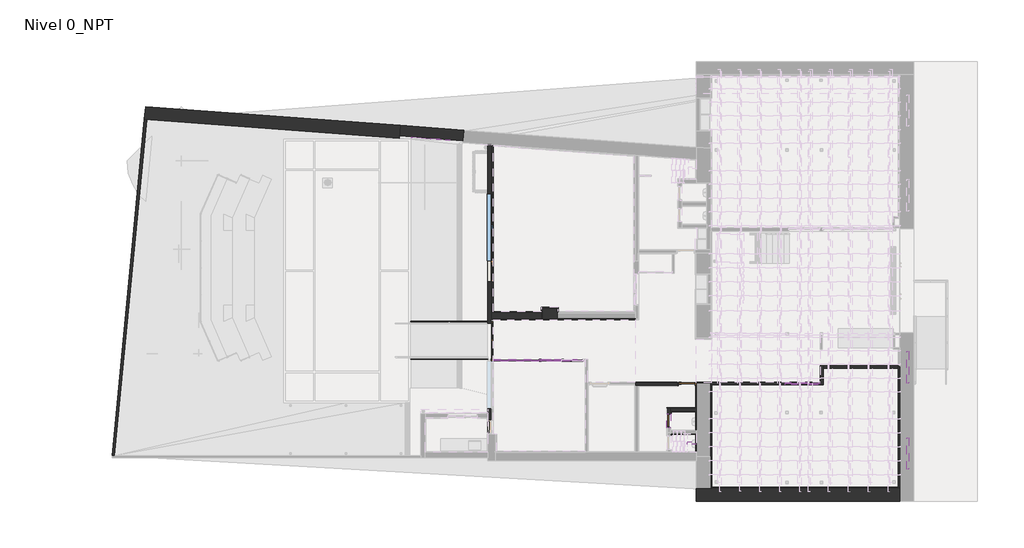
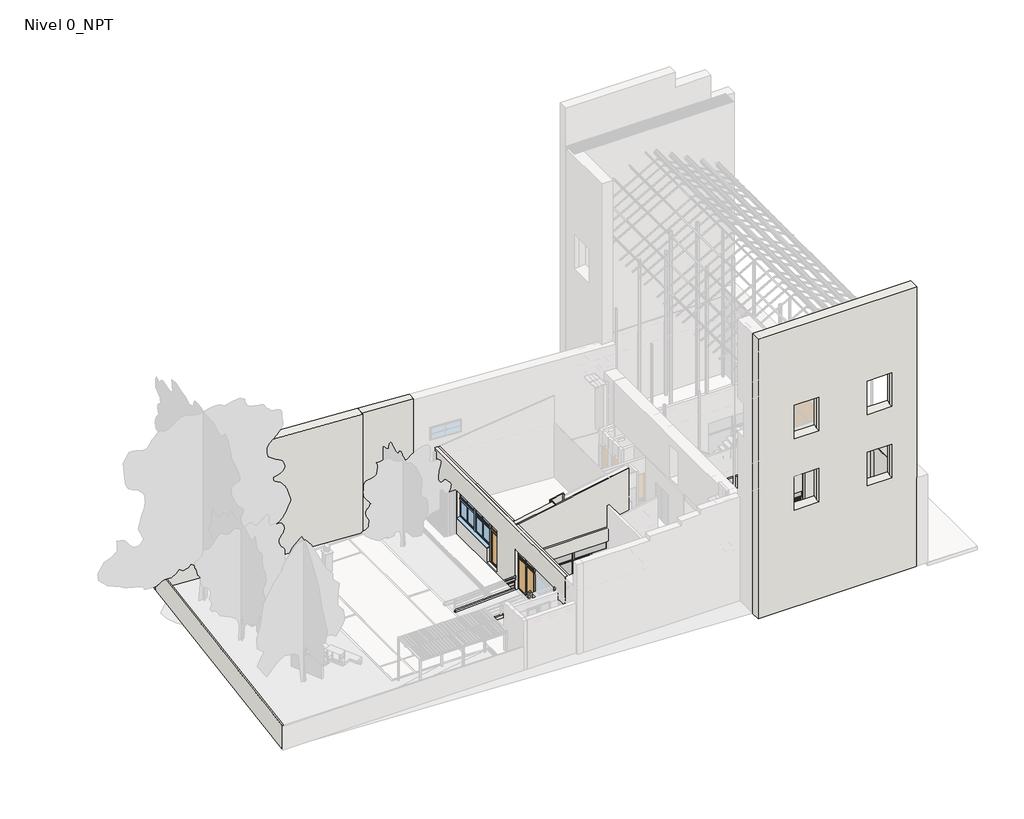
# One storey, part 2 of 10: 38 walls, 13 members, 8 plates, 4 doors, 4 windows.
"""IFC4 building model written with IfcOpenShell, lengths in millimetres."""

from ifc_helpers import new_model, si_unit, frame, origin, origin_with_axes, place, context, project, spatial, polyline, outline, extrude, faceted_brep, transform, mapped, element, save
from components import door_f6aa89b4, door_db755311, door_e3acdb04, arq_pu_int_alu_muro_cortina_35e93262, montante_rectangular_10x10_23ae108b, montante_rectangular_10x10_5bd723db, montante_rectangular_10x10_1208ad8d, montante_rectangular_10x10_d4860ac2, montante_rectangular_10x10_ed9c435a, montante_rectangular_5x10_aa8766cf, montante_rectangular_5x10_c640f651, montante_rectangular_5x10_80e42d04, montante_rectangular_5x10_69503be4, montante_rectangular_5x5_ec66791f, montante_rectangular_5x5_64893cda, plate_c2ac4313, plate_084df372, plate_0e3e9aa2, plate_3da4a636, plate_a66405bc, plate_f4d53fb9, plate_d8b661f9, plate_b5645cc8, window_49d07148, window_5a991f98, window_182x111_f0448781

model = new_model("IFC4")

# Units and contexts
model_context = context("Model", 3, world=origin())
ifc_project = project(units=[si_unit("LENGTHUNIT", "METRE", prefix="MILLI")], contexts=[model_context])

# Site, building, storey
site = spatial("IfcSite", under=ifc_project)
building = spatial("IfcBuilding", under=site)
storey = spatial("IfcBuildingStorey", under=building, Name="Nivel 0_NPT", Elevation=0.0)

# Doors
placement = place(None, origin())
door_shape = door_f6aa89b4(model_context)
element("IfcDoor", 1, ObjectType="ARQ-PU-EX-80X260-Alu-A2 : ARQ-PU-EX-80X260-Alu-A2", at=placement, inside=storey, context=model_context, shape_type="MappedRepresentation", body=[
    mapped(door_shape, transform((-4285.1873738, 4459.9632893, 0.0), x_axis=(0.0, 1.0, 0.0), y_axis=(-1.0, 0.0, 0.0), z_axis=(0.0, 0.0, 1.0))),
])
door_2_shape = door_db755311(model_context)
element("IfcDoor", 2, ObjectType="ARQ-PU-EX-181x260-Alu-A3 : ARQ-PU-EX-181x260-Alu-A3", at=placement, inside=storey, context=model_context, shape_type="MappedRepresentation", body=[
    mapped(door_2_shape, transform((-4285.1873738, 1143.887883, 0.0), x_axis=(0.0, 1.0, 0.0), y_axis=(-1.0, 0.0, 0.0), z_axis=(0.0, 0.0, 1.0))),
])
door_3_shape = door_e3acdb04(model_context)
element("IfcDoor", 3, ObjectType="ARQ-PU-INT-90x210-Mad-C3 : ARQ-PU-INT-90x210-Mad", at=placement, inside=storey, context=model_context, shape_type="MappedRepresentation", body=[
    mapped(door_3_shape, transform((4904.8126262, -881.4629444, 0.0), x_axis=(1.0, 0.0, 0.0), y_axis=(0.0, 1.0, 0.0), z_axis=(0.0, 0.0, 1.0))),
])
arq_pu_int_alu_muro_cortina_shape = arq_pu_int_alu_muro_cortina_35e93262(model_context)
element("IfcDoor", 4, ObjectType="ARQ-PU-INT-Alu (muro cortina) : ARQ-PU-IN-Alu-sshh", at=placement, inside=storey, context=model_context, shape_type="MappedRepresentation", body=[
    mapped(arq_pu_int_alu_muro_cortina_shape, transform((4064.8126262, -2606.3927727, 320.0), x_axis=(0.0, -1.0, 0.0), y_axis=(1.0, 0.0, 0.0), z_axis=(0.0, 0.0, 1.0))),
])

# Members
montante_rectangular_10x10_shape = montante_rectangular_10x10_23ae108b(model_context)
element("IfcMember", 5, ObjectType="Montante rectangular : 10x10", at=placement, inside=storey, context=model_context, shape_type="MappedRepresentation", body=[
    mapped(montante_rectangular_10x10_shape, transform((-998.3495097, 244.0630157, 0.0), x_axis=(1.0, 0.0, 0.0), y_axis=(0.0, -1.0, 0.0), z_axis=(0.0, 0.0, -1.0))),
])
montante_rectangular_10x10_2_shape = montante_rectangular_10x10_5bd723db(model_context)
element("IfcMember", 6, ObjectType="Montante rectangular : 10x10", at=placement, inside=storey, context=model_context, shape_type="MappedRepresentation", body=[
    mapped(montante_rectangular_10x10_2_shape, transform((10223.8493091, -846.4629444, 0.0), x_axis=(-1.0, 0.0, 0.0), y_axis=(0.0, 1.0, 0.0), z_axis=(0.0, 0.0, -1.0))),
])
montante_rectangular_10x10_3_shape = montante_rectangular_10x10_1208ad8d(model_context)
element("IfcMember", 7, ObjectType="Montante rectangular : 10x10", at=placement, inside=storey, context=model_context, shape_type="MappedRepresentation", body=[
    mapped(montante_rectangular_10x10_3_shape, transform((11223.8493091, -846.4629444, 2250.0), x_axis=(1.0, 0.0, 0.0), y_axis=(0.0, 1.0, 0.0), z_axis=(0.0, 0.0, 1.0))),
])
montante_rectangular_10x10_4_shape = montante_rectangular_10x10_d4860ac2(model_context)
element("IfcMember", 8, ObjectType="Montante rectangular : 10x10", at=placement, inside=storey, context=model_context, shape_type="MappedRepresentation", body=[
    mapped(montante_rectangular_10x10_4_shape, transform((-2064.2674582, 244.0630157, 2125.0), x_axis=(1.0, 0.0, 0.0), y_axis=(0.0, -1.0, 0.0), z_axis=(0.0, 0.0, -1.0))),
])
montante_rectangular_10x10_5_shape = montante_rectangular_10x10_ed9c435a(model_context)
element("IfcMember", 9, ObjectType="Montante rectangular : 10x10", at=placement, inside=storey, context=model_context, shape_type="MappedRepresentation", body=[
    mapped(montante_rectangular_10x10_5_shape, transform((-2064.2674582, 244.0630157, 0.0), x_axis=(1.0, 0.0, 0.0), y_axis=(0.0, -1.0, 0.0), z_axis=(0.0, 0.0, -1.0))),
])
montante_rectangular_5x10_shape = montante_rectangular_5x10_aa8766cf(model_context)
element("IfcMember", 10, ObjectType="Montante rectangular : 5x10", at=placement, inside=storey, context=model_context, shape_type="MappedRepresentation", body=[
    mapped(montante_rectangular_5x10_shape, transform((9573.8493091, -846.4629444, 2225.0), x_axis=(0.0, 0.0, 1.0), y_axis=(0.0, 1.0, 0.0), z_axis=(-1.0, 0.0, 0.0))),
])
montante_rectangular_5x10_2_shape = montante_rectangular_5x10_c640f651(model_context)
element("IfcMember", 11, ObjectType="Montante rectangular : 5x10", at=placement, inside=storey, context=model_context, shape_type="MappedRepresentation", body=[
    mapped(montante_rectangular_5x10_2_shape, transform((10223.8493091, -846.4629444, 2225.0), x_axis=(0.0, 0.0, 1.0), y_axis=(0.0, 1.0, 0.0), z_axis=(-1.0, 0.0, 0.0))),
])
montante_rectangular_5x10_3_shape = montante_rectangular_5x10_80e42d04(model_context)
element("IfcMember", 12, ObjectType="Montante rectangular : 5x10", at=placement, inside=storey, context=model_context, shape_type="MappedRepresentation", body=[
    mapped(montante_rectangular_5x10_3_shape, transform((-2064.2674582, 244.0630157, 2125.0), x_axis=(0.0, 0.0, 1.0), y_axis=(0.0, -1.0, 0.0), z_axis=(1.0, 0.0, 0.0))),
])
montante_rectangular_5x10_4_shape = montante_rectangular_5x10_69503be4(model_context)
element("IfcMember", 13, ObjectType="Montante rectangular : 5x10", at=placement, inside=storey, context=model_context, shape_type="MappedRepresentation", body=[
    mapped(montante_rectangular_5x10_4_shape, transform((-998.3495097, 244.0630157, 2125.0), x_axis=(0.0, 0.0, 1.0), y_axis=(0.0, -1.0, 0.0), z_axis=(1.0, 0.0, 0.0))),
])
montante_rectangular_5x5_shape = montante_rectangular_5x5_ec66791f(model_context)
element("IfcMember", 14, ObjectType="Montante rectangular : 5x5", at=placement, inside=storey, context=model_context, shape_type="MappedRepresentation", body=[
    mapped(montante_rectangular_5x5_shape, transform((4064.8126262, -2281.3927727, 0.0), x_axis=(0.0, 1.0, 0.0), y_axis=(1.0, 0.0, 0.0), z_axis=(0.0, 0.0, -1.0))),
])
element("IfcMember", 15, ObjectType="Montante rectangular : 5x5", at=placement, inside=storey, context=model_context, shape_type="MappedRepresentation", body=[
    mapped(montante_rectangular_5x5_shape, transform((4064.8126262, -2931.3927727, 320.0), x_axis=(0.0, -1.0, 0.0), y_axis=(1.0, 0.0, 0.0), z_axis=(0.0, 0.0, 1.0))),
])
montante_rectangular_5x5_2_shape = montante_rectangular_5x5_64893cda(model_context)
element("IfcMember", 16, ObjectType="Montante rectangular : 5x5", at=placement, inside=storey, context=model_context, shape_type="MappedRepresentation", body=[
    mapped(montante_rectangular_5x5_2_shape, transform((4064.8126262, -2931.3927727, 2100.0), x_axis=(0.0, -1.0, 0.0), y_axis=(1.0, 0.0, 0.0), z_axis=(0.0, 0.0, 1.0))),
])
element("IfcMember", 17, ObjectType="Montante rectangular : 5x5", at=placement, inside=storey, context=model_context, shape_type="MappedRepresentation", body=[
    mapped(montante_rectangular_5x5_2_shape, transform((4064.8126262, -2281.3927727, 320.0), x_axis=(0.0, 1.0, 0.0), y_axis=(1.0, 0.0, 0.0), z_axis=(0.0, 0.0, -1.0))),
])

# Plates
plate_shape = plate_c2ac4313(model_context)
element("IfcPlate", 18, ObjectType="ARQ-PA-IN-Vidrio Fijo Laminado  : ARQ-PA-IN-Vidrio Fijo Laminado ", at=placement, inside=storey, context=model_context, shape_type="MappedRepresentation", body=[
    mapped(plate_shape, transform((9848.8493091, -846.4629444, 0.0), x_axis=(-1.0, 0.0, 0.0), y_axis=(0.0, -1.0, 0.0), z_axis=(0.0, 0.0, 1.0))),
])
plate_2_shape = plate_084df372(model_context)
element("IfcPlate", 19, ObjectType="ARQ-PA-IN-AluVid-Puerta : ARQ-PA-IN-AluVid-Puerta", at=placement, inside=storey, context=model_context, shape_type="MappedRepresentation", body=[
    mapped(plate_2_shape, transform((10673.8493091, -846.4629444, 0.0), x_axis=(1.0, 0.0, 0.0), y_axis=(0.0, 1.0, 0.0), z_axis=(0.0, 0.0, 1.0))),
])
plate_3_shape = plate_0e3e9aa2(model_context)
element("IfcPlate", 20, ObjectType="ARQ-PA-IN-Vidrio Fijo : ARQ-PA-IN-Vidrio Fijo", at=placement, inside=storey, context=model_context, shape_type="MappedRepresentation", body=[
    mapped(plate_3_shape, transform((10398.8493091, -846.4629444, 2250.0), x_axis=(-1.0, 0.0, 0.0), y_axis=(0.0, -1.0, 0.0), z_axis=(0.0, 0.0, 1.0))),
])
plate_4_shape = plate_3da4a636(model_context)
element("IfcPlate", 21, ObjectType="ARQ-PA-IN-Vidrio Fijo : ARQ-PA-IN-Vidrio Fijo", at=placement, inside=storey, context=model_context, shape_type="MappedRepresentation", body=[
    mapped(plate_4_shape, transform((-3149.727416, 244.0630157, 2150.0), x_axis=(1.0, 0.0, 0.0), y_axis=(0.0, 1.0, 0.0), z_axis=(0.0, 0.0, 1.0))),
])
plate_5_shape = plate_a66405bc(model_context)
element("IfcPlate", 22, ObjectType="ARQ-PA-IN-Vidrio Fijo : ARQ-PA-IN-Vidrio Fijo", at=placement, inside=storey, context=model_context, shape_type="MappedRepresentation", body=[
    mapped(plate_5_shape, transform((-978.8075003, 244.0630157, 2150.0), x_axis=(1.0, 0.0, 0.0), y_axis=(0.0, 1.0, 0.0), z_axis=(0.0, 0.0, 1.0))),
])
plate_6_shape = plate_f4d53fb9(model_context)
element("IfcPlate", 23, ObjectType="ARQ-PA-IN-Vidrio Fijo Laminado  : ARQ-PA-IN-Vidrio Fijo Laminado ", at=placement, inside=storey, context=model_context, shape_type="MappedRepresentation", body=[
    mapped(plate_6_shape, transform((-3149.727416, 244.0630157, 0.0), x_axis=(1.0, 0.0, 0.0), y_axis=(0.0, 1.0, 0.0), z_axis=(0.0, 0.0, 1.0))),
])
plate_7_shape = plate_d8b661f9(model_context)
element("IfcPlate", 24, ObjectType="ARQ-PA-IN-AluVid-Puerta : ARQ-PA-IN-AluVid-Puerta", at=placement, inside=storey, context=model_context, shape_type="MappedRepresentation", body=[
    mapped(plate_7_shape, transform((-445.8485261, 244.0630157, 0.0), x_axis=(1.0, 0.0, 0.0), y_axis=(0.0, 1.0, 0.0), z_axis=(0.0, 0.0, 1.0))),
])
plate_8_shape = plate_b5645cc8(model_context)
element("IfcPlate", 25, ObjectType="ARQ-PA-IN-Vidrio Fijo Laminado  : ARQ-PA-IN-Vidrio Fijo Laminado ", at=placement, inside=storey, context=model_context, shape_type="MappedRepresentation", body=[
    mapped(plate_8_shape, transform((-1481.3084839, 244.0630157, 0.0), x_axis=(1.0, 0.0, 0.0), y_axis=(0.0, 1.0, 0.0), z_axis=(0.0, 0.0, 1.0))),
])

# Walls
element("IfcWall", 26, ObjectType="ARQ-MU-EX-15-Gen", at=placement, inside=storey, context=model_context, shape_type="Brep", body=[
    faceted_brep([(-4485.1873738, 10443.5135311, -200.0), (-4485.1873738, 4953.1844917, -200.0), (-4485.1873738, 3959.9632893, -200.0), (-4485.1873738, 1993.887883, -200.0), (-4485.1873738, 1993.887883, 96.7815953), (-4485.1873738, 1993.887883, 2600.0), (-4485.1873738, 304.5844917, 2600.0), (-4485.1873738, -2046.1124434, 2600.0), (-4485.1873738, -2046.1124434, 880.0), (-4485.1873738, 193.887883, 880.0), (-4485.1873738, 193.887883, -200.0), (-4485.1873738, -2266.3927727, -200.0), (-4485.1873738, -2466.3927727, -200.0), (-4485.1873738, -3236.3927727, -200.0), (-4485.1873738, -3236.3927727, 0.0), (-4485.1873738, -2586.3927727, 0.0), (-4485.1873738, -2586.3927727, 2100.0), (-4485.1873738, -3236.3927727, 2100.0), (-4485.1873738, -3236.3927727, 3984.0), (-4485.1873738, 10443.5135311, 3984.0), (-4485.1873738, 4959.9632893, -20.0), (-4485.1873738, 4959.9632893, 880.0), (-4485.1873738, 8109.9634185, 880.0), (-4485.1873738, 8109.9634185, 2600.0), (-4485.1873738, 3959.9632893, 2600.0), (-4485.1873738, 3959.9632893, -20.0), (-4335.1873738, 4953.1844917, -200.0), (-4335.1873738, 10432.532743, -200.0), (-4335.1873738, 10432.532743, 4011.0), (-4335.1873738, 2504.5844917, 4011.0), (-4335.1873738, 2204.5844917, 4011.0), (-4335.1873738, -3236.3927727, 4011.0), (-4335.1873738, -3236.3927727, 2100.0), (-4335.1873738, -2586.3927727, 2100.0), (-4335.1873738, -2586.3927727, 0.0), (-4335.1873738, -3236.3927727, 0.0), (-4335.1873738, -3236.3927727, -200.0), (-4335.1873738, 193.887883, -200.0), (-4335.1873738, 193.887883, 880.0), (-4335.1873738, -2046.1124434, 880.0), (-4335.1873738, -2046.1124434, 2600.0), (-4335.1873738, 304.5844917, 2600.0), (-4335.1873738, 1993.887883, 2600.0), (-4335.1873738, 1993.887883, -200.0), (-4335.1873738, 3959.9632893, -200.0), (-4335.1873738, 4959.9632893, 880.0), (-4335.1873738, 4959.9632893, -20.0), (-4335.1873738, 3959.9632893, -20.0), (-4335.1873738, 3959.9632893, 2600.0), (-4335.1873738, 8109.9634185, 2600.0), (-4335.1873738, 8109.9634185, 880.0)], [[[0, 1, 2, 3, 4, 5, 6, 7, 8, 9, 10, 11, 12, 13, 14, 15, 16, 17, 18, 19], [20, 21, 22, 23, 24, 25]], [[26, 27, 28, 29, 30, 31, 32, 33, 34, 35, 36, 37, 38, 39, 40, 41, 42, 43, 44], [45, 46, 47, 48, 49, 50]], [[0, 19, 28, 27]], [[19, 18, 31, 30, 29, 28]], [[1, 0, 27, 26]], [[31, 18, 17, 32]], [[13, 36, 35, 14]], [[21, 20, 46, 45]], [[22, 21, 45, 50]], [[23, 22, 50, 49]], [[24, 23, 49, 48]], [[25, 24, 48, 47]], [[3, 2, 44, 43]], [[2, 1, 26, 44]], [[20, 25, 47, 46]], [[10, 9, 38, 37]], [[6, 5, 42, 41]], [[7, 6, 41, 40]], [[8, 7, 40, 39]], [[9, 8, 39, 38]], [[16, 33, 32, 17]], [[33, 16, 15, 34]], [[34, 15, 14, 35]], [[13, 12, 11, 10, 37, 36]], [[5, 4, 3, 43, 42]]]),
])
element("IfcWall", 27, ObjectType="ARQ-MU-IN-30-Gen", at=placement, inside=storey, context=model_context, shape_type="SweptSolid", body=[
    extrude(outline(polyline([(-20.0, -4335.1873738), (-20.0, -1965.1747062), (4437.6022802, -1965.1747062), (4011.0, -4335.1873738), (-20.0, -4335.1873738)])), frame((0.0, 2204.5844917, 0.0), z_axis=(0.0, 1.0, 0.0), x_axis=(0.0, 0.0, 1.0)), (0.0, 0.0, 1.0), 300.0),
])
element("IfcWall", 28, ObjectType="ARQ-MU-EX-60-Gen", at=placement, inside=storey, context=model_context, shape_type="Brep", body=[
    faceted_brep([(-20710.6794593, 11631.8202621, -200.0), (-20610.9221429, 11624.5130551, -200.0), (-8674.5344786, 10750.174628, -200.0), (-8674.5344786, 10750.174628, 7400.0), (-20710.6794593, 11631.8202621, 7400.0), (-20710.6794593, 11631.8202621, 1300.0), (-20653.5773579, 12229.2450507, -200.0), (-20653.5773579, 12229.2450507, 7400.0), (-8630.7020126, 11348.5714152, 7400.0), (-8630.7020126, 11348.5714152, -200.0)], [[[0, 1, 2, 3, 4, 5]], [[6, 7, 8, 9]], [[2, 1, 0, 6, 9]], [[3, 2, 9, 8]], [[4, 3, 8, 7]], [[0, 5, 4, 7, 6]]]),
])
element("IfcWall", 29, ObjectType="ARQ-MU-EX-60-Lad", at=placement, inside=storey, context=model_context, shape_type="Brep", body=[
    faceted_brep([(14964.8126262, -5806.3671234, -200.0), (6034.2897792, -5806.3671234, -200.0), (5354.2897792, -5806.3671234, -200.0), (5354.2897792, -5806.3671234, 17700.0), (6034.2897792, -5806.3671234, 17700.0), (14964.8126262, -5806.3671234, 17700.0), (14964.8126262, -5806.3671234, 4910.0), (14964.8126262, -5806.3671234, -20.0), (9114.8126262, -5806.3671234, 10550.0), (9114.8126262, -5806.3671234, 12700.0), (7454.8126262, -5806.3671234, 12700.0), (7454.8126262, -5806.3671234, 10550.0), (13544.8126262, -5806.3671234, 5990.0), (13544.8126262, -5806.3671234, 8140.0), (11884.8126262, -5806.3671234, 8140.0), (11884.8126262, -5806.3671234, 5990.0), (9114.8126262, -5806.3671234, 5990.0), (9114.8126262, -5806.3671234, 8140.0), (7454.8126262, -5806.3671234, 8140.0), (7454.8126262, -5806.3671234, 5990.0), (13544.8126262, -5806.3671234, 12700.0), (11884.8126262, -5806.3671234, 12700.0), (11884.8126262, -5806.3671234, 10550.0), (13544.8126262, -5806.3671234, 10550.0), (5354.2897792, -6406.3671234, -200.0), (14964.8126262, -6406.3671234, -200.0), (14964.8126262, -6406.3671234, 5450.0), (14964.8126262, -6406.3671234, 17700.0), (5354.2897792, -6406.3671234, 17700.0), (9034.8126262, -6406.3671234, 12700.0), (9034.8126262, -6406.3671234, 10550.0), (7534.8126262, -6406.3671234, 10550.0), (7534.8126262, -6406.3671234, 12700.0), (13464.8126262, -6406.3671234, 8140.0), (13464.8126262, -6406.3671234, 5990.0), (11964.8126262, -6406.3671234, 5990.0), (11964.8126262, -6406.3671234, 8140.0), (9034.8126262, -6406.3671234, 8140.0), (9034.8126262, -6406.3671234, 5990.0), (7534.8126262, -6406.3671234, 5990.0), (7534.8126262, -6406.3671234, 8140.0), (13464.8126262, -6406.3671234, 12700.0), (13464.8126262, -6406.3671234, 10550.0), (11964.8126262, -6406.3671234, 10550.0), (11964.8126262, -6406.3671234, 12700.0), (9034.8126262, -6196.3671234, 12700.0), (9034.8126262, -6196.3671234, 10550.0), (7534.8126262, -6196.3671234, 12700.0), (13464.8126262, -6196.3671234, 12700.0), (11964.8126262, -6196.3671234, 12700.0), (7534.8126262, -6196.3671234, 10550.0), (13464.8126262, -6196.3671234, 10550.0), (11964.8126262, -6196.3671234, 10550.0), (13464.8126262, -6196.3671234, 8140.0), (13464.8126262, -6196.3671234, 5990.0), (11964.8126262, -6196.3671234, 8140.0), (7534.8126262, -6196.3671234, 8140.0), (9034.8126262, -6196.3671234, 8140.0), (11964.8126262, -6196.3671234, 5990.0), (9034.8126262, -6196.3671234, 5990.0), (7534.8126262, -6196.3671234, 5990.0)], [[[0, 1, 2, 3, 4, 5, 6, 7], [8, 9, 10, 11], [12, 13, 14, 15], [16, 17, 18, 19], [20, 21, 22, 23]], [[24, 25, 26, 27, 28], [29, 30, 31, 32], [33, 34, 35, 36], [37, 38, 39, 40], [41, 42, 43, 44]], [[2, 1, 0, 25, 24]], [[5, 4, 3, 28, 27]], [[3, 2, 24, 28]], [[30, 29, 45, 46]], [[29, 32, 47, 10, 9, 45]], [[20, 48, 41, 44, 49, 21]], [[32, 31, 50, 47]], [[31, 30, 46, 8, 11, 50]], [[51, 23, 22, 52, 43, 42]], [[34, 33, 53, 54]], [[33, 36, 55, 14, 13, 53]], [[37, 40, 56, 18, 17, 57]], [[36, 35, 58, 55]], [[35, 34, 54, 12, 15, 58]], [[39, 38, 59, 16, 19, 60]], [[38, 37, 57, 59]], [[40, 39, 60, 56]], [[48, 20, 23, 51]], [[21, 49, 52, 22]], [[45, 9, 8, 46]], [[10, 47, 50, 11]], [[53, 13, 12, 54]], [[14, 55, 58, 15]], [[57, 17, 16, 59]], [[18, 56, 60, 19]], [[51, 42, 41, 48]], [[49, 44, 43, 52]], [[25, 0, 7, 6, 5, 27, 26]]]),
])
element("IfcWall", 30, ObjectType="ARQ-MU-IN-15-Gen", at=placement, inside=storey, context=model_context, shape_type="Brep", body=[
    faceted_brep([(5354.2897792, -956.4629444, 3060.0), (2624.8126262, -956.4629444, 3060.0), (2474.8126262, -956.4629444, 3060.0), (2474.8126262, -956.4629444, 0.0), (2624.8126262, -956.4629444, 0.0), (4454.8126262, -956.4629444, 0.0), (4454.8126262, -956.4629444, 2100.0), (5354.2897792, -956.4629444, 2100.0), (2474.8126262, -806.4629444, 3060.0), (5354.2897792, -806.4629444, 3060.0), (5354.2897792, -806.4629444, 2100.0), (4454.8126262, -806.4629444, 2100.0), (4454.8126262, -806.4629444, 0.0), (2474.8126262, -806.4629444, 0.0), (2474.8126262, -881.4629444, 0.0)], [[[0, 1, 2, 3, 4, 5, 6, 7]], [[8, 9, 10, 11, 12, 13]], [[3, 14, 13, 12, 5, 4]], [[2, 1, 0, 9, 8]], [[3, 2, 8, 13, 14]], [[9, 0, 7, 10]], [[11, 6, 5, 12]], [[6, 11, 10, 7]]]),
])
element("IfcWall", 31, ObjectType="ARQ-MU-IN-16-Gen", at=placement, inside=storey, context=model_context, shape_type="Brep", body=[
    faceted_brep([(5354.2897792, -2006.3927727, 0.0), (4154.8126262, -2006.3927727, 0.0), (4154.8126262, -2006.3927727, 3060.0), (5354.2897792, -2006.3927727, 3060.0), (5354.2897792, -2166.3927727, 0.0), (5354.2897792, -2166.3927727, 2100.0), (5354.2897792, -2166.3927727, 3060.0), (4154.8126262, -2166.3927727, 3060.0), (4154.8126262, -2166.3927727, 2100.0), (4154.8126262, -2166.3927727, 0.0), (4174.8126262, -2166.3927727, 0.0), (5334.2897792, -2166.3927727, 0.0)], [[[0, 1, 2, 3]], [[4, 5, 6, 7, 8, 9, 10, 11]], [[1, 0, 4, 11, 10, 9]], [[3, 2, 7, 6]], [[0, 3, 6, 5, 4]], [[2, 1, 9, 8, 7]]]),
])
element("IfcWall", 32, ObjectType="ARQ-MU-IN-17-Gen", at=placement, inside=storey, context=model_context, shape_type="Brep", body=[
    faceted_brep([(4154.8126262, -2281.3927727, 0.0), (4154.8126262, -2166.3927727, 0.0), (4154.8126262, -2006.3927727, 0.0), (4154.8126262, -2006.3927727, 3060.0), (4154.8126262, -2166.3927727, 3060.0), (4154.8126262, -2281.3927727, 3060.0), (3984.8126262, -2281.3927727, 0.0), (3984.8126262, -2281.3927727, 3060.0), (3984.8126262, -2006.3927727, 3060.0), (3984.8126262, -2006.3927727, 0.0), (4144.8126262, -2281.3927727, 3060.0)], [[[0, 1, 2, 3, 4, 5]], [[6, 7, 8, 9]], [[2, 1, 0, 6, 9]], [[5, 4, 3, 8, 7, 10]], [[0, 5, 10, 7, 6]], [[3, 2, 9, 8]]]),
])
element("IfcWall", 33, ObjectType="ARQ-MU-EX-10-Gen", at=placement, inside=storey, context=model_context, shape_type="SweptSolid", body=[
    extrude(outline(polyline([(-20610.9221429, 11624.5130551), (-22128.8255038, -4256.3927727), (-22229.281246, -4256.3927727), (-20710.6794593, 11631.8202621), (-20610.9221429, 11624.5130551)])), frame((0.0, 0.0, -200.0), z_axis=(0.0, 0.0, 1.0), x_axis=(1.0, 0.0, 0.0)), (0.0, 0.0, 1.0), 1500.0),
])
element("IfcWall", 34, ObjectType="ARQ-MU-IN-13-Ye-T4", at=placement, inside=storey, context=model_context, shape_type="Brep", body=[
    faceted_brep([(11223.8493091, -1.3913714, 4910.0), (11223.8493091, -1.3913714, 2100.0), (11223.8493091, -1.3913714, -20.0), (11223.8493091, -781.4629444, -20.0), (11223.8493091, -911.4629444, -20.0), (11223.8493091, -911.4629444, 0.0), (11223.8493091, -911.4629444, 2600.0), (11223.8493091, -911.4629444, 4910.0), (11223.8493091, -781.4629444, 4910.0), (11353.8493091, -1.3913714, -20.0), (11353.8493091, -1.3913714, 4910.0), (11353.8493091, -131.3913714, 4910.0), (11353.8493091, -911.4629444, 4910.0), (11353.8493091, -911.4629444, -20.0), (11353.8493091, -131.3913714, -20.0), (11313.8493091, -1.3913714, 4910.0)], [[[0, 1, 2, 3, 4, 5, 6, 7, 8]], [[9, 10, 11, 12, 13, 14]], [[4, 3, 2, 9, 14, 13]], [[0, 8, 7, 12, 11, 10, 15]], [[7, 6, 5, 4, 13, 12]], [[0, 15, 10, 9, 2, 1]]]),
])
element("IfcWall", 35, ObjectType="ARQ-MU-IN-13-Ye-T4", at=placement, inside=storey, context=model_context, shape_type="Brep", body=[
    faceted_brep([(6034.2897792, -911.4629444, -20.0), (6084.2897792, -911.4629444, -20.0), (11223.8493091, -911.4629444, -20.0), (11223.8493091, -911.4629444, 0.0), (9573.8493091, -911.4629444, 0.0), (9573.8493091, -911.4629444, 2600.0), (11223.8493091, -911.4629444, 2600.0), (11223.8493091, -911.4629444, 4910.0), (6084.2897792, -911.4629444, 4910.0), (6034.2897792, -911.4629444, 4910.0), (11223.8493091, -781.4629444, -20.0), (6034.2897792, -781.4629444, -20.0), (6034.2897792, -781.4629444, 0.0), (6034.2897792, -781.4629444, 3060.0), (6034.2897792, -781.4629444, 4910.0), (6084.2897792, -781.4629444, 4910.0), (11223.8493091, -781.4629444, 4910.0), (11223.8493091, -781.4629444, 2600.0), (9573.8493091, -781.4629444, 2600.0), (9573.8493091, -781.4629444, 0.0), (11223.8493091, -781.4629444, 0.0)], [[[0, 1, 2, 3, 4, 5, 6, 7, 8, 9]], [[10, 11, 12, 13, 14, 15, 16, 17, 18, 19, 20]], [[2, 1, 0, 11, 10]], [[9, 8, 7, 16, 15, 14]], [[2, 10, 20, 3]], [[16, 7, 6, 17]], [[5, 18, 17, 6]], [[18, 5, 4, 19]], [[19, 4, 3, 20]], [[11, 0, 9, 14, 13, 12]]]),
])
element("IfcWall", 36, ObjectType="ARQ-RE-IN-5-Ye-M2", at=placement, inside=storey, context=model_context, shape_type="Brep", body=[
    faceted_brep([(-1215.1747062, 2754.5818525, -20.0), (-1215.1747062, 2704.5818525, -20.0), (-1215.1747062, 2554.5844917, -20.0), (-1215.1747062, 2554.5844917, 4572.6022802), (-1215.1747062, 2704.5818525, 4572.6022802), (-1215.1747062, 2754.5818525, 4572.6022802), (-1165.1747062, 2754.5818525, -20.0), (-1165.1747062, 2754.5818525, 4581.6022802), (-1165.1747062, 2554.5844917, 4581.6022802), (-1165.1747062, 2554.5844917, -20.0)], [[[0, 1, 2, 3, 4, 5]], [[6, 7, 8, 9]], [[2, 1, 0, 6, 9]], [[5, 4, 3, 8, 7]], [[0, 5, 7, 6]], [[3, 2, 9, 8]]]),
])
element("IfcWall", 37, ObjectType="ARQ-RE-IN-5-Ye-M2", at=placement, inside=storey, context=model_context, shape_type="Brep", body=[
    faceted_brep([(-1215.1747062, 2754.5818525, -20.0), (-1965.1747062, 2754.5818525, -20.0), (-1965.1747062, 2754.5818525, 4437.6022802), (-1215.1747062, 2754.5818525, 4572.6022802), (-1215.1747062, 2704.5818525, -20.0), (-1215.1747062, 2704.5818525, 4572.6022802), (-1915.1747062, 2704.5818525, 4446.6022802), (-1965.1747062, 2704.5818525, 4437.6022802), (-1965.1747062, 2704.5818525, -20.0), (-1915.1747062, 2704.5818525, -20.0)], [[[0, 1, 2, 3]], [[4, 5, 6, 7, 8, 9]], [[1, 0, 4, 9, 8]], [[2, 1, 8, 7]], [[3, 2, 7, 6, 5]], [[0, 3, 5, 4]]]),
])
element("IfcWall", 38, ObjectType="ARQ-RE-IN-5-Ye-M2", at=placement, inside=storey, context=model_context, shape_type="Brep", body=[
    faceted_brep([(-1965.1747062, 2704.5818525, -20.0), (-1965.1747062, 2554.5844917, -20.0), (-1965.1747062, 2504.5844917, -20.0), (-1965.1747062, 2204.5818525, -20.0), (-1965.1747062, 2204.5818525, 4437.6022802), (-1965.1747062, 2504.5844917, 4437.6022802), (-1965.1747062, 2704.5818525, 4437.6022802), (-1915.1747062, 2704.5818525, -20.0), (-1915.1747062, 2704.5818525, 3740.0), (-1915.1747062, 2704.5818525, 4446.6022802), (-1915.1747062, 2204.5818525, 4446.6022802), (-1915.1747062, 2204.5818525, 3740.0), (-1915.1747062, 2204.5818525, -20.0)], [[[0, 1, 2, 3, 4, 5, 6]], [[7, 8, 9, 10, 11, 12]], [[3, 2, 1, 0, 7, 12]], [[0, 6, 9, 8, 7]], [[6, 5, 4, 10, 9]], [[4, 3, 12, 11, 10]]]),
])
element("IfcWall", 39, ObjectType="ARQ-RE-IN-5-Ye-M2", at=placement, inside=storey, context=model_context, shape_type="Brep", body=[
    faceted_brep([(-1965.1747062, 2554.5844917, -20.0), (-4235.1873738, 2554.5844917, -20.0), (-4335.1873738, 2554.5844917, -20.0), (-4335.1873738, 2554.5844917, 3450.0), (-1965.1747062, 2554.5844917, 3450.0), (-1965.1747062, 2504.5844917, -20.0), (-1965.1747062, 2504.5844917, 3450.0), (-4335.1873738, 2504.5844917, 3450.0), (-4335.1873738, 2504.5844917, -20.0)], [[[0, 1, 2, 3, 4]], [[5, 6, 7, 8]], [[2, 1, 0, 5, 8]], [[4, 3, 7, 6]], [[0, 4, 6, 5]], [[3, 2, 8, 7]]]),
])
element("IfcWall", 40, ObjectType="ARQ-RE-IN-5-Ye-M2", at=placement, inside=storey, context=model_context, shape_type="Brep", body=[
    faceted_brep([(-4335.1873738, 2154.5844917, -20.0), (-4235.1873738, 2154.5844917, -20.0), (2474.8126262, 2154.5844917, -20.0), (2474.8126262, 2154.5844917, 3060.0), (2474.8126262, 2154.5844917, 5236.8), (-4235.1873738, 2154.5844917, 4029.0), (-4335.1873738, 2154.5844917, 4011.0), (-4335.1873738, 2204.5844917, -20.0), (-4335.1873738, 2204.5844917, 4011.0), (2474.8126262, 2204.5844917, 5236.8), (2474.8126262, 2204.5844917, 3060.0), (2474.8126262, 2204.5844917, -20.0)], [[[0, 1, 2, 3, 4, 5, 6]], [[7, 8, 9, 10, 11]], [[2, 1, 0, 7, 11]], [[6, 5, 4, 9, 8]], [[0, 6, 8, 7]], [[4, 3, 2, 11, 10, 9]]]),
])
element("IfcWall", 41, ObjectType="ARQ-RE-IN-10-Ye-M6", at=placement, inside=storey, context=model_context, shape_type="Brep", body=[
    faceted_brep([(-4235.1873738, 2554.5844917, -20.0), (-4235.1873738, 10375.0784214, -20.0), (-4235.1873738, 10375.0784214, 4029.0), (-4235.1873738, 2554.5844917, 4029.0), (-4235.1873738, 3959.9632893, 2600.0), (-4235.1873738, 8109.9634185, 2600.0), (-4235.1873738, 8109.9634185, 880.0), (-4235.1873738, 4959.9634185, 880.0), (-4235.1873738, 4959.9632893, 0.0), (-4235.1873738, 3959.9632893, 0.0), (-4335.1873738, 10382.3989468, -20.0), (-4335.1873738, 2554.5844917, -20.0), (-4335.1873738, 2554.5844917, 3450.0), (-4335.1873738, 2554.5844917, 4011.0), (-4335.1873738, 10382.3989468, 4011.0), (-4335.1873738, 8109.9634185, 2600.0), (-4335.1873738, 3959.9632893, 2600.0), (-4335.1873738, 3959.9632893, 0.0), (-4335.1873738, 4959.9632893, 0.0), (-4335.1873738, 4959.9632893, 880.0), (-4335.1873738, 8109.9634185, 880.0)], [[[0, 1, 2, 3], [4, 5, 6, 7, 8, 9]], [[10, 11, 12, 13, 14], [15, 16, 17, 18, 19, 20]], [[2, 1, 10, 14]], [[0, 3, 13, 12, 11]], [[3, 2, 14, 13]], [[1, 0, 11, 10]], [[4, 16, 15, 5]], [[6, 5, 15, 20]], [[7, 6, 20, 19]], [[18, 8, 7, 19]], [[16, 4, 9, 17]], [[8, 18, 17, 9]]]),
])
element("IfcWall", 42, ObjectType="ARQ-RE-IN-5-Ye-M2", at=placement, inside=storey, context=model_context, shape_type="Brep", body=[
    faceted_brep([(6034.2897792, -911.4629444, -20.0), (6034.2897792, -5806.3671234, -20.0), (6034.2897792, -5806.3671234, 4910.0), (6034.2897792, -911.4629444, 4910.0), (6084.2897792, -911.4629444, -20.0), (6084.2897792, -911.4629444, 4910.0), (6084.2897792, -5756.3671234, 4910.0), (6084.2897792, -5806.3671234, 4910.0), (6084.2897792, -5806.3671234, -20.0), (6084.2897792, -5756.3671234, -20.0)], [[[0, 1, 2, 3]], [[4, 5, 6, 7, 8, 9]], [[1, 0, 4, 9, 8]], [[3, 2, 7, 6, 5]], [[2, 1, 8, 7]], [[0, 3, 5, 4]]]),
])
element("IfcWall", 43, ObjectType="ARQ-RE-IN-5-Ye-M2", at=placement, inside=storey, context=model_context, shape_type="SweptSolid", body=[
    extrude(outline(polyline([(6084.2897792, -5806.3671234), (6084.2897792, -5756.3671234), (14914.8126262, -5756.3671234), (14914.8126262, -5806.3671234), (6084.2897792, -5806.3671234)])), frame((0.0, 0.0, -20.0), z_axis=(0.0, 0.0, 1.0), x_axis=(1.0, 0.0, 0.0)), (0.0, 0.0, 1.0), 4930.0),
])
element("IfcWall", 44, ObjectType="ARQ-RE-IN-5-Ye-M2", at=placement, inside=storey, context=model_context, shape_type="Brep", body=[
    faceted_brep([(14964.8126262, -5806.3671234, -20.0), (14964.8126262, -66.3913714, -20.0), (14964.8126262, -66.3913714, 1400.0), (14964.8126262, -906.3927727, 1400.0), (14964.8126262, -906.3927727, 3550.0), (14964.8126262, -66.3913714, 3550.0), (14964.8126262, -66.3913714, 4910.0), (14964.8126262, -5806.3671234, 4910.0), (14964.8126262, -3336.3927727, 1400.0), (14964.8126262, -4986.3927727, 1400.0), (14964.8126262, -4986.3927727, 3550.0), (14964.8126262, -3336.3927727, 3550.0), (14914.8126262, -5806.3671234, -20.0), (14914.8126262, -5806.3671234, 4910.0), (14914.8126262, -5756.3671234, 4910.0), (14914.8126262, -131.3913714, 4910.0), (14914.8126262, -66.3913714, 4910.0), (14914.8126262, -66.3913714, 3550.0), (14914.8126262, -906.3927727, 3550.0), (14914.8126262, -906.3927727, 1400.0), (14914.8126262, -66.3913714, 1400.0), (14914.8126262, -66.3913714, -20.0), (14914.8126262, -131.3913714, -20.0), (14914.8126262, -5756.3671234, -20.0), (14914.8126262, -3336.3927727, 1400.0), (14914.8126262, -3336.3927727, 3550.0), (14914.8126262, -4986.3927727, 3550.0), (14914.8126262, -4986.3927727, 1400.0)], [[[0, 1, 2, 3, 4, 5, 6, 7], [8, 9, 10, 11]], [[12, 13, 14, 15, 16, 17, 18, 19, 20, 21, 22, 23], [24, 25, 26, 27]], [[0, 7, 13, 12]], [[1, 0, 12, 23, 22, 21]], [[2, 1, 21, 20]], [[7, 6, 16, 15, 14, 13]], [[9, 8, 24, 27]], [[10, 9, 27, 26]], [[11, 10, 26, 25]], [[8, 11, 25, 24]], [[3, 2, 20, 19]], [[4, 3, 19, 18]], [[5, 4, 18, 17]], [[6, 5, 17, 16]]]),
])
element("IfcWall", 45, ObjectType="ARQ-RE-IN-2-Ye-M4", at=placement, inside=storey, context=model_context, shape_type="Brep", body=[
    faceted_brep([(2474.8126262, -806.4629444, -20.0), (4454.8126262, -806.4629444, -20.0), (4454.8126262, -806.4629444, 0.0), (4454.8126262, -806.4629444, 2100.0), (5354.8126262, -806.4629444, 2100.0), (5354.8126262, -806.4629444, 0.0), (5354.8126262, -806.4629444, -20.0), (6034.2897792, -806.4629444, -20.0), (6034.2897792, -806.4629444, 3060.0), (2474.8126262, -806.4629444, 3060.0), (4454.8126262, -781.4629444, -20.0), (2474.8126262, -781.4629444, -20.0), (2474.8126262, -781.4629444, 0.0), (2474.8126262, -781.4629444, 3060.0), (2624.8126262, -781.4629444, 3060.0), (6034.2897792, -781.4629444, 3060.0), (6034.2897792, -781.4629444, -20.0), (5354.8126262, -781.4629444, -20.0), (5354.8126262, -781.4629444, 0.0), (5354.8126262, -781.4629444, 2100.0), (4454.8126262, -781.4629444, 2100.0), (4454.8126262, -781.4629444, 0.0)], [[[0, 1, 2, 3, 4, 5, 6, 7, 8, 9]], [[10, 11, 12, 13, 14, 15, 16, 17, 18, 19, 20, 21]], [[1, 0, 11, 10]], [[8, 7, 16, 15]], [[9, 8, 15, 14, 13]], [[0, 9, 13, 12, 11]], [[1, 10, 21, 20, 3, 2]], [[4, 3, 20, 19]], [[4, 19, 18, 17, 6, 5]], [[7, 6, 17, 16]]]),
])
element("IfcWall", 46, ObjectType="ARQ-MU-IN-10-Ye-T8", at=placement, inside=storey, context=model_context, shape_type="SweptSolid", body=[
    extrude(outline(polyline([(5354.2897792, -3706.3927727), (4924.2897792, -3706.3927727), (4924.2897792, -3606.3927727), (5354.2897792, -3606.3927727), (5354.2897792, -3706.3927727)])), frame((0.0, 0.0, 2812.0), z_axis=(0.0, 0.0, 1.0), x_axis=(1.0, 0.0, 0.0)), (0.0, 0.0, 1.0), 2628.0),
])
element("IfcWall", 47, ObjectType="ARQ-MU-IN-10-Ye-T6", at=placement, inside=storey, context=model_context, shape_type="SweptSolid", body=[
    extrude(outline(polyline([(-4235.1873738, 293.8880157), (106.6524575, 293.8880157), (106.6524575, 193.8880157), (-4235.1873738, 193.8880157), (-4235.1873738, 293.8880157)])), frame((0.0, 0.0, 2600.0), z_axis=(0.0, 0.0, 1.0), x_axis=(1.0, 0.0, 0.0)), (0.0, 0.0, 1.0), 850.0),
])
element("IfcWall", 48, ObjectType="ARQ-MU-EX-50-Gen", at=placement, inside=storey, context=model_context, shape_type="SweptSolid", body=[
    extrude(outline(polyline([(-0.0133029, 0.0), (3008.1535933, 0.0), (3008.1535933, -7600.0), (-0.0133029, -7600.0), (-0.0133029, 0.0)]), holes=[polyline([(2398.1535933, -1680.0), (578.1535933, -1680.0), (578.1535933, -2790.0), (2398.1535933, -2790.0), (2398.1535933, -1680.0)])]), frame((-8667.204744, 10849.9056447, -200.0), z_axis=(0.07300988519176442, 0.9973312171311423, 0.0), x_axis=(0.9973312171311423, -0.07300988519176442, 0.0)), (0.0, 0.0, 1.0), 500.0),
])
element("IfcWall", 49, ObjectType="ARQ-MU-IN-50-Gen", at=placement, inside=storey, context=model_context, shape_type="Brep", body=[
    faceted_brep([(-1915.1747062, 2204.5818525, 3740.0), (-1915.1747062, 2204.5818525, -20.0), (-1215.1747062, 2204.5818525, -20.0), (-1215.1747062, 2204.5818525, 3740.0), (-1915.1747062, 2704.5818525, -20.0), (-1915.1747062, 2704.5818525, 3740.0), (-1215.1747062, 2704.5818525, 3740.0), (-1215.1747062, 2704.5818525, -20.0), (-1215.1747062, 2554.5844917, -20.0), (-1215.1747062, 2504.5844917, -20.0)], [[[0, 1, 2, 3]], [[4, 5, 6, 7]], [[2, 1, 4, 7, 8, 9]], [[0, 3, 6, 5]], [[3, 2, 9, 8, 7, 6]], [[0, 5, 4, 1]]]),
])
element("IfcWall", 50, ObjectType="ARQ-MU-IN-17-Gen", at=placement, inside=storey, context=model_context, shape_type="Brep", body=[
    faceted_brep([(4144.8126262, -2931.3927727, 2400.0), (4144.8126262, -2281.3927727, 2400.0), (4144.8126262, -2281.3927727, 3060.0), (4144.8126262, -2931.3927727, 3060.0), (3974.8126262, -2931.3927727, 2400.0), (3974.8126262, -2931.3927727, 3060.0), (3974.8126262, -2281.3927727, 3060.0), (3974.8126262, -2281.3927727, 2400.0), (3984.8126262, -2281.3927727, 3060.0), (3984.8126262, -2931.3927727, 3060.0)], [[[0, 1, 2, 3]], [[4, 5, 6, 7]], [[1, 0, 4, 7]], [[2, 1, 7, 6, 8]], [[3, 2, 8, 6, 5, 9]], [[0, 3, 9, 5, 4]]]),
])
element("IfcWall", 51, ObjectType="ARQ-MU-EX-10-Gen", at=placement, inside=storey, context=model_context, shape_type="SweptSolid", body=[
    extrude(outline(polyline([(-220.0, -4485.1873738), (100.0, -4485.1873738), (-60.0, -8138.7427078), (-220.0, -8138.7427078), (-220.0, -4485.1873738)])), frame((0.0, 293.887883, 0.0), z_axis=(0.0, 1.0, 0.0), x_axis=(0.0, 0.0, 1.0)), (0.0, 0.0, 1.0), 100.0),
])
element("IfcWall", 52, ObjectType="ARQ-MU-EX-10-Gen", at=placement, inside=storey, context=model_context, shape_type="Brep", body=[
    faceted_brep([(-4485.1873738, 2093.887883, -220.0), (-8138.7427078, 2093.887883, -220.0), (-8138.7427078, 2093.887883, -60.0), (-4485.1873738, 2093.887883, 96.7815953), (-4485.1873738, 1993.887883, -220.0), (-4485.1873738, 1993.887883, -200.0), (-4485.1873738, 1993.887883, 96.7815953), (-8138.7427078, 1993.887883, -60.0), (-8138.7427078, 1993.887883, -220.0)], [[[0, 1, 2, 3]], [[4, 5, 6, 7, 8]], [[0, 3, 6, 5, 4]], [[1, 0, 4, 8]], [[2, 1, 8, 7]], [[3, 2, 7, 6]]]),
])
element("IfcWall", 53, ObjectType="ARQ-RE-IN-2-Cer", at=placement, inside=storey, context=model_context, shape_type="Brep", body=[
    faceted_brep([(5354.2897792, -2006.3927727, 0.0), (5354.2897792, -956.4629444, 0.0), (5354.2897792, -956.4629444, 2100.0), (5354.2897792, -2006.3927727, 2100.0), (5334.2897792, -2006.3927727, 0.0), (5334.2897792, -2006.3927727, 2100.0), (5334.2897792, -1986.3927727, 2100.0), (5334.2897792, -956.4629444, 2100.0), (5334.2897792, -956.4629444, 0.0), (5334.2897792, -1986.3927727, 0.0)], [[[0, 1, 2, 3]], [[4, 5, 6, 7, 8, 9]], [[1, 0, 4, 9, 8]], [[3, 2, 7, 6, 5]], [[2, 1, 8, 7]], [[0, 3, 5, 4]]]),
])
element("IfcWall", 54, ObjectType="ARQ-RE-IN-2-Cer", at=placement, inside=storey, context=model_context, shape_type="Brep", body=[
    faceted_brep([(5334.2897792, -1986.3927727, 0.0), (3964.8126262, -1986.3927727, 0.0), (3964.8126262, -1986.3927727, 2100.0), (5334.2897792, -1986.3927727, 2100.0), (5334.2897792, -2006.3927727, 0.0), (5334.2897792, -2006.3927727, 2100.0), (3984.8126262, -2006.3927727, 2100.0), (3964.8126262, -2006.3927727, 2100.0), (3964.8126262, -2006.3927727, 0.0), (3984.8126262, -2006.3927727, 0.0)], [[[0, 1, 2, 3]], [[4, 5, 6, 7, 8, 9]], [[1, 0, 4, 9, 8]], [[3, 2, 7, 6, 5]], [[0, 3, 5, 4]], [[2, 1, 8, 7]]]),
])
element("IfcWall", 55, ObjectType="ARQ-RE-IN-2-Cer", at=placement, inside=storey, context=model_context, shape_type="Brep", body=[
    faceted_brep([(4174.8126262, -2281.3927727, 0.0), (4174.8126262, -2186.3927727, 0.0), (4174.8126262, -2166.3927727, 0.0), (4174.8126262, -2166.3927727, 2100.0), (4174.8126262, -2186.3927727, 2100.0), (4174.8126262, -2281.3927727, 2100.0), (4154.8126262, -2281.3927727, 0.0), (4154.8126262, -2281.3927727, 2100.0), (4154.8126262, -2166.3927727, 2100.0), (4154.8126262, -2166.3927727, 0.0)], [[[0, 1, 2, 3, 4, 5]], [[6, 7, 8, 9]], [[2, 1, 0, 6, 9]], [[5, 4, 3, 8, 7]], [[0, 5, 7, 6]], [[3, 2, 9, 8]]]),
])
element("IfcWall", 56, ObjectType="ARQ-RE-IN-2-Cer", at=placement, inside=storey, context=model_context, shape_type="SweptSolid", body=[
    extrude(outline(polyline([(5354.2897792, -2186.3927727), (4174.8126262, -2186.3927727), (4174.8126262, -2166.3927727), (5354.2897792, -2166.3927727), (5354.2897792, -2186.3927727)])), origin_with_axes(), (0.0, 0.0, 1.0), 2100.0),
])
element("IfcWall", 57, ObjectType="ARQ-RE-IN-2-Cer", at=placement, inside=storey, context=model_context, shape_type="Brep", body=[
    faceted_brep([(5334.2897792, -2166.3927727, 0.0), (5334.2897792, -3046.3927727, 0.0), (5334.2897792, -3066.3927727, 0.0), (5334.2897792, -3066.3927727, 2100.0), (5334.2897792, -3046.3927727, 2100.0), (5334.2897792, -2166.3927727, 2100.0), (5354.2897792, -2166.3927727, 0.0), (5354.2897792, -2166.3927727, 2100.0), (5354.2897792, -3066.3927727, 2100.0), (5354.2897792, -3066.3927727, 0.0)], [[[0, 1, 2, 3, 4, 5]], [[6, 7, 8, 9]], [[2, 1, 0, 6, 9]], [[5, 4, 3, 8, 7]], [[0, 5, 7, 6]], [[3, 2, 9, 8]]]),
])
element("IfcWall", 58, ObjectType="ARQ-RE-IN-2-Cer", at=placement, inside=storey, context=model_context, shape_type="Brep", body=[
    faceted_brep([(5334.2897792, -3046.3927727, 0.0), (4164.8126262, -3046.3927727, 0.0), (4144.8126262, -3046.3927727, 0.0), (4144.8126262, -3046.3927727, 2100.0), (4164.8126262, -3046.3927727, 2100.0), (5334.2897792, -3046.3927727, 2100.0), (5334.2897792, -3066.3927727, 0.0), (5334.2897792, -3066.3927727, 2100.0), (4144.8126262, -3066.3927727, 2100.0), (4144.8126262, -3066.3927727, 0.0)], [[[0, 1, 2, 3, 4, 5]], [[6, 7, 8, 9]], [[2, 1, 0, 6, 9]], [[5, 4, 3, 8, 7]], [[0, 5, 7, 6]], [[3, 2, 9, 8]]]),
])
element("IfcWall", 59, ObjectType="ARQ-RE-IN-2-Cer", at=placement, inside=storey, context=model_context, shape_type="SweptSolid", body=[
    extrude(outline(polyline([(4164.8126262, -2931.3927727), (4164.8126262, -3046.3927727), (4144.8126262, -3046.3927727), (4144.8126262, -2931.3927727), (4164.8126262, -2931.3927727)])), origin_with_axes(), (0.0, 0.0, 1.0), 2100.0),
])
element("IfcWall", 60, ObjectType="ARQ-RE-IN-2-Cer", at=placement, inside=storey, context=model_context, shape_type="Brep", body=[
    faceted_brep([(4174.8126262, -3321.3927727, 0.0), (4174.8126262, -3246.3927727, 0.0), (4174.8126262, -3226.3927727, 0.0), (4174.8126262, -3226.3927727, 2100.0), (4174.8126262, -3246.3927727, 2100.0), (4174.8126262, -3321.3927727, 2100.0), (4154.8126262, -3321.3927727, 0.0), (4154.8126262, -3321.3927727, 2100.0), (4154.8126262, -3226.3927727, 2100.0), (4154.8126262, -3226.3927727, 0.0)], [[[0, 1, 2, 3, 4, 5]], [[6, 7, 8, 9]], [[2, 1, 0, 6, 9]], [[5, 4, 3, 8, 7]], [[0, 5, 7, 6]], [[3, 2, 9, 8]]]),
])
element("IfcWall", 61, ObjectType="ARQ-RE-IN-2-Cer", at=placement, inside=storey, context=model_context, shape_type="Brep", body=[
    faceted_brep([(4174.8126262, -3246.3927727, 0.0), (5334.2897792, -3246.3927727, 0.0), (5354.2897792, -3246.3927727, 0.0), (5354.2897792, -3246.3927727, 2100.0), (5334.2897792, -3246.3927727, 2100.0), (4174.8126262, -3246.3927727, 2100.0), (4174.8126262, -3226.3927727, 0.0), (4174.8126262, -3226.3927727, 2100.0), (5354.2897792, -3226.3927727, 2100.0), (5354.2897792, -3226.3927727, 0.0)], [[[0, 1, 2, 3, 4, 5]], [[6, 7, 8, 9]], [[2, 1, 0, 6, 9]], [[5, 4, 3, 8, 7]], [[0, 5, 7, 6]], [[3, 2, 9, 8]]]),
])
element("IfcWall", 62, ObjectType="ARQ-RE-IN-2-Cer", at=placement, inside=storey, context=model_context, shape_type="SweptSolid", body=[
    extrude(outline(polyline([(5334.2897792, -4086.3927727), (5334.2897792, -3246.3927727), (5354.2897792, -3246.3927727), (5354.2897792, -4086.3927727), (5334.2897792, -4086.3927727)])), origin_with_axes(), (0.0, 0.0, 1.0), 2100.0),
])
element("IfcWall", 63, ObjectType="ARQ-MU-IN-13-Ye-T4", at=placement, inside=storey, context=model_context, shape_type="Brep", body=[
    faceted_brep([(11353.8493091, -131.3913714, 4910.0), (11353.8493091, -131.3913714, -20.0), (14914.8126262, -131.3913714, -20.0), (14914.8126262, -131.3913714, 4910.0), (11353.8493091, -1.3913714, -20.0), (11353.8493091, -1.3913714, 4910.0), (14914.8126262, -1.3913714, 4910.0), (14914.8126262, -1.3913714, -20.0), (14914.8126262, -66.3913714, -20.0), (14914.8126262, -66.3913714, 4910.0)], [[[0, 1, 2, 3]], [[4, 5, 6, 7]], [[2, 1, 4, 7, 8]], [[0, 3, 9, 6, 5]], [[2, 8, 7, 6, 9, 3]], [[0, 5, 4, 1]]]),
])

# Windows
window_shape = window_49d07148(model_context)
element("IfcWindow", 64, ObjectType="ARQ-VE-EX-215x170-Ace : ARQ-VE-EX-215x170-Ace", at=placement, inside=storey, context=model_context, shape_type="MappedRepresentation", body=[
    mapped(window_shape, transform((15304.8126262, -4156.3927727, 350.0), x_axis=(0.0, -1.0, 0.0), y_axis=(1.0, 0.0, 0.0), z_axis=(0.0, 0.0, 1.0))),
])
element("IfcWindow", 65, ObjectType="ARQ-VE-EX-215x170-Ace : ARQ-VE-EX-215x170-Ace", at=placement, inside=storey, context=model_context, shape_type="MappedRepresentation", body=[
    mapped(window_shape, transform((15304.8126262, -76.3927727, 350.0), x_axis=(0.0, -1.0, 0.0), y_axis=(1.0, 0.0, 0.0), z_axis=(0.0, 0.0, 1.0))),
])
window_2_shape = window_5a991f98(model_context)
element("IfcWindow", 66, ObjectType="ARQ-VE-EX-315x155-Al-A1 : ARQ-VE-EX-315x165-Al-A1", at=placement, inside=storey, context=model_context, shape_type="MappedRepresentation", body=[
    mapped(window_2_shape, transform((-4285.1873738, 6534.9634185, 0.0), x_axis=(0.0, 1.0, 0.0), y_axis=(-1.0, 0.0, 0.0), z_axis=(0.0, 0.0, 1.0))),
])
window_182x111_shape = window_182x111_f0448781(model_context)
element("IfcWindow", 67, ObjectType="ARQ-VE-EX-Rejilla : 182x111", at=placement, inside=storey, context=model_context, shape_type="MappedRepresentation", body=[
    mapped(window_182x111_shape, transform((-7164.7702382, 10990.588526, 680.0), x_axis=(-0.9973312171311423, 0.07300988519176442, 0.0), y_axis=(-0.07300988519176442, -0.9973312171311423, 0.0), z_axis=(0.0, 0.0, 1.0))),
])

save(model, "model.ifc")
